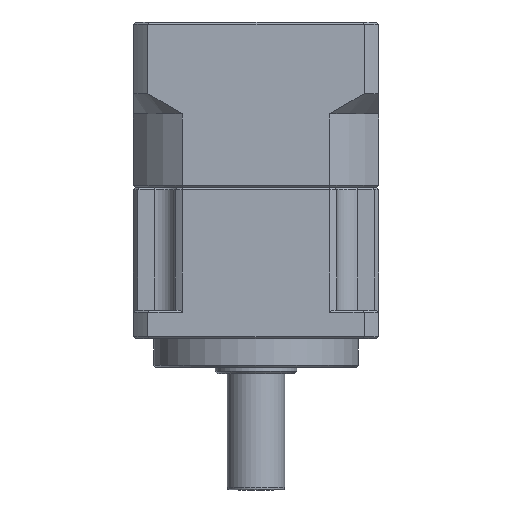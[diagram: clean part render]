
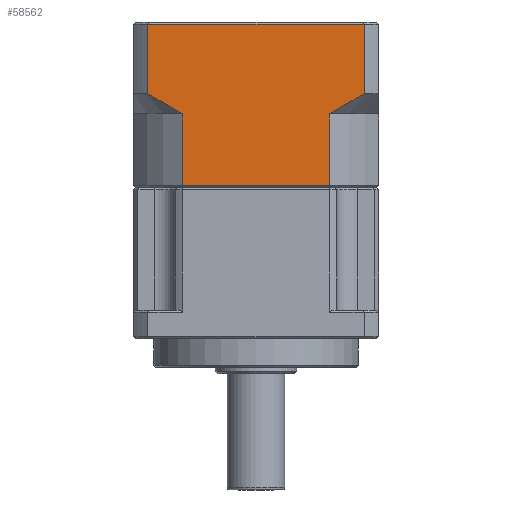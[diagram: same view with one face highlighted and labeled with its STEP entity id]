
A CAD part, front view. The second image highlights one B-rep face of the part: STEP entity #58562.
In plain terms, the highlighted planar face has unit normal (0, -1, 0).
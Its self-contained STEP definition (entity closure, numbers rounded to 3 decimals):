
#62 = VERTEX_POINT ( 'NONE', #6637 ) ;
#208 = LINE ( 'NONE', #30052, #79564 ) ;
#5134 = CARTESIAN_POINT ( 'NONE',  ( -5.835, -19.087, 134.002 ) ) ;
#6637 = CARTESIAN_POINT ( 'NONE',  ( -5.835, -19.087, 134.002 ) ) ;
#7113 = DIRECTION ( 'NONE',  ( 0., 0., 1. ) ) ;
#7186 = VECTOR ( 'NONE', #7113, 1000. ) ;
#7479 = ORIENTED_EDGE ( 'NONE', *, *, #34535, .F. ) ;
#7623 = EDGE_CURVE ( 'NONE', #25809, #62945, #208, .T. ) ;
#8077 = VERTEX_POINT ( 'NONE', #44031 ) ;
#9545 = LINE ( 'NONE', #99201, #7186 ) ;
#12298 = DIRECTION ( 'NONE',  ( 1., 0., 0. ) ) ;
#13292 = AXIS2_PLACEMENT_3D ( 'NONE', #30819, #84585, #38539 ) ;
#13836 = LINE ( 'NONE', #77726, #34276 ) ;
#19361 = DIRECTION ( 'NONE',  ( 0., 0., -1. ) ) ;
#20564 = CARTESIAN_POINT ( 'NONE',  ( -8.58, -19.087, 132.225 ) ) ;
#20865 = LINE ( 'NONE', #63963, #59344 ) ;
#22333 = EDGE_CURVE ( 'NONE', #78582, #97467, #13836, .T. ) ;
#25809 = VERTEX_POINT ( 'NONE', #50949 ) ;
#25886 = ORIENTED_EDGE ( 'NONE', *, *, #74887, .F. ) ;
#27686 = CARTESIAN_POINT ( 'NONE',  ( -53.2, -19.087, 130.551 ) ) ;
#28069 = ORIENTED_EDGE ( 'NONE', *, *, #7623, .F. ) ;
#28292 = CARTESIAN_POINT ( 'NONE',  ( -12.81, -19.087, 129.751 ) ) ;
#29102 = ORIENTED_EDGE ( 'NONE', *, *, #22333, .F. ) ;
#30052 = CARTESIAN_POINT ( 'NONE',  ( -2.293, -19.087, 111.502 ) ) ;
#30819 = CARTESIAN_POINT ( 'NONE',  ( -2.293, -19.087, 111.002 ) ) ;
#31969 = ORIENTED_EDGE ( 'NONE', *, *, #84006, .F. ) ;
#34276 = VECTOR ( 'NONE', #85750, 1000. ) ;
#34535 = EDGE_CURVE ( 'NONE', #62, #68556, #75610, .T. ) ;
#35310 = EDGE_CURVE ( 'NONE', #97467, #45262, #38938, .T. ) ;
#35416 = CARTESIAN_POINT ( 'NONE',  ( -57.386, -19.087, 133.1 ) ) ;
#38171 = CARTESIAN_POINT ( 'NONE',  ( -50.32, -19.087, 111.502 ) ) ;
#38200 = PLANE ( 'NONE',  #13292 ) ;
#38207 = EDGE_CURVE ( 'NONE', #45262, #62, #52393, .T. ) ;
#38539 = DIRECTION ( 'NONE',  ( 0., 0., -1. ) ) ;
#38938 = LINE ( 'NONE', #96673, #97856 ) ;
#39847 = ORIENTED_EDGE ( 'NONE', *, *, #86924, .F. ) ;
#40688 = ORIENTED_EDGE ( 'NONE', *, *, #38207, .F. ) ;
#44031 = CARTESIAN_POINT ( 'NONE',  ( -50.32, -19.087, 129.002 ) ) ;
#45262 = VERTEX_POINT ( 'NONE', #84358 ) ;
#47564 = ORIENTED_EDGE ( 'NONE', *, *, #35310, .F. ) ;
#50949 = CARTESIAN_POINT ( 'NONE',  ( -14.265, -19.087, 111.502 ) ) ;
#52393 = LINE ( 'NONE', #65820, #93285 ) ;
#52996 = CARTESIAN_POINT ( 'NONE',  ( -58.75, -19.087, 151.002 ) ) ;
#58562 = ADVANCED_FACE ( 'NONE', ( #69778 ), #38200, .T. ) ;
#59344 = VECTOR ( 'NONE', #71665, 1000. ) ;
#62945 = VERTEX_POINT ( 'NONE', #38171 ) ;
#63963 = CARTESIAN_POINT ( 'NONE',  ( -14.265, -19.087, 91.775 ) ) ;
#65820 = CARTESIAN_POINT ( 'NONE',  ( -5.835, -19.087, 91.775 ) ) ;
#66050 = CARTESIAN_POINT ( 'NONE',  ( -50.32, -19.087, 129.002 ) ) ;
#68556 = VERTEX_POINT ( 'NONE', #70158 ) ;
#69778 = FACE_OUTER_BOUND ( 'NONE', #92146, .T. ) ;
#70158 = CARTESIAN_POINT ( 'NONE',  ( -14.265, -19.087, 129.002 ) ) ;
#70227 = B_SPLINE_CURVE_WITH_KNOTS ( 'NONE', 3,
 ( #66050, #73423, #27686, #81457, #35416, #89165 ),
 .UNSPECIFIED., .F., .F.,
 ( 4, 2, 4 ),
 ( 0., 0.005, 0.01 ),
 .UNSPECIFIED. ) ;
#71665 = DIRECTION ( 'NONE',  ( 0., 0., -1. ) ) ;
#73423 = CARTESIAN_POINT ( 'NONE',  ( -51.775, -19.087, 129.751 ) ) ;
#74355 = CARTESIAN_POINT ( 'NONE',  ( -11.385, -19.087, 130.551 ) ) ;
#74887 = EDGE_CURVE ( 'NONE', #68556, #25809, #20865, .T. ) ;
#75610 = B_SPLINE_CURVE_WITH_KNOTS ( 'NONE', 3,
 ( #5134, #97193, #20564, #74355, #28292, #82071 ),
 .UNSPECIFIED., .F., .F.,
 ( 4, 2, 4 ),
 ( 0., 0.005, 0.01 ),
 .UNSPECIFIED. ) ;
#77726 = CARTESIAN_POINT ( 'NONE',  ( -58.75, -19.087, 91.775 ) ) ;
#78549 = CARTESIAN_POINT ( 'NONE',  ( -58.75, -19.087, 134.002 ) ) ;
#78582 = VERTEX_POINT ( 'NONE', #78549 ) ;
#79564 = VECTOR ( 'NONE', #91562, 1000. ) ;
#81457 = CARTESIAN_POINT ( 'NONE',  ( -56.006, -19.087, 132.225 ) ) ;
#82071 = CARTESIAN_POINT ( 'NONE',  ( -14.265, -19.087, 129.002 ) ) ;
#84006 = EDGE_CURVE ( 'NONE', #62945, #8077, #9545, .T. ) ;
#84358 = CARTESIAN_POINT ( 'NONE',  ( -5.835, -19.087, 151.002 ) ) ;
#84585 = DIRECTION ( 'NONE',  ( 0., -1., 0. ) ) ;
#85750 = DIRECTION ( 'NONE',  ( 0., 0., 1. ) ) ;
#86924 = EDGE_CURVE ( 'NONE', #8077, #78582, #70227, .T. ) ;
#89165 = CARTESIAN_POINT ( 'NONE',  ( -58.75, -19.087, 134.002 ) ) ;
#91562 = DIRECTION ( 'NONE',  ( -1., 0., 0. ) ) ;
#92146 = EDGE_LOOP ( 'NONE', ( #40688, #47564, #29102, #39847, #31969, #28069, #25886, #7479 ) ) ;
#93285 = VECTOR ( 'NONE', #19361, 1000. ) ;
#96673 = CARTESIAN_POINT ( 'NONE',  ( -2.293, -19.087, 151.002 ) ) ;
#97193 = CARTESIAN_POINT ( 'NONE',  ( -7.199, -19.087, 133.1 ) ) ;
#97467 = VERTEX_POINT ( 'NONE', #52996 ) ;
#97856 = VECTOR ( 'NONE', #12298, 1000. ) ;
#99201 = CARTESIAN_POINT ( 'NONE',  ( -50.32, -19.087, 91.775 ) ) ;
